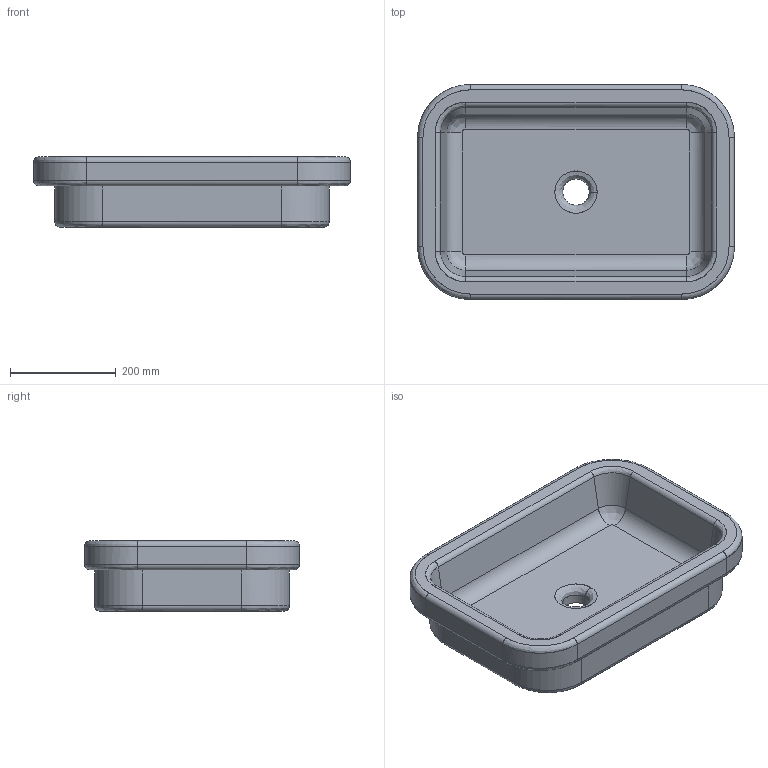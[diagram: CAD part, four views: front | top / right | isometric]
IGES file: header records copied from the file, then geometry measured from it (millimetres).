
Start section: C
Global section: file name: Next 60-A.igs; native system:  By UGS Corp.; preprocessor: XPlus GENERIC/IGES 3.0; author: Author; organization: Title; date: 20120320.143144; units: millimetre
Bounding box: 600 x 407 x 133 mm (x, y, z)
Surface area: 835778.8 mm2 (no closed solid volume)
Topology: 0 solids, 0 shells, 144 faces, 666 edges, 666 vertices
Faces by surface type: bspline 144
